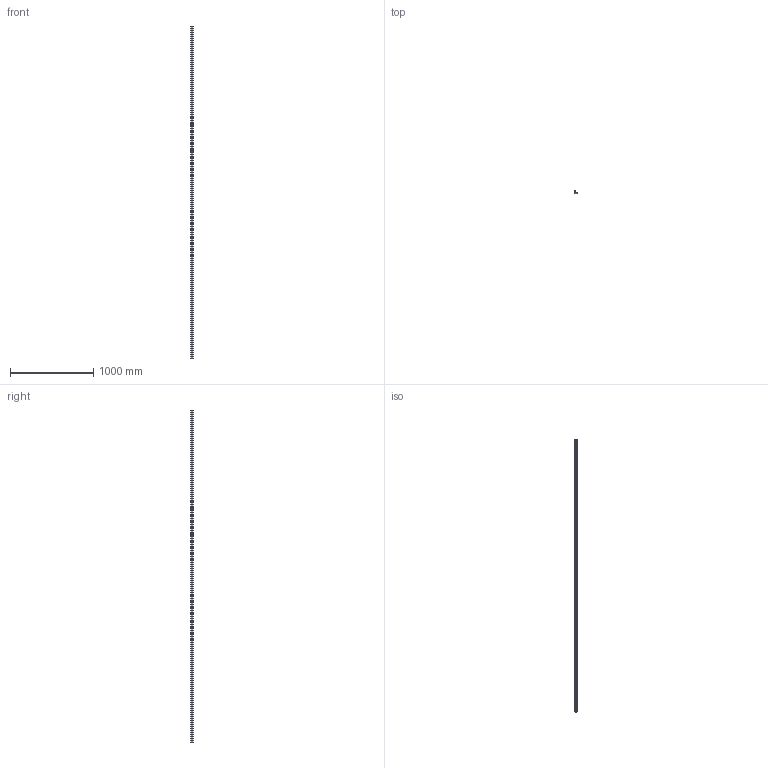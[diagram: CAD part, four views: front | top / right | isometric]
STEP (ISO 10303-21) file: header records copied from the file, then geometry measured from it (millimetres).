
FILE_DESCRIPTION (( 'STEP AP214' ), '1' );
FILE_NAME ('Penn Elcom-E6448.STEP', '2019-03-21T09:51:34', ( '' ), ( '' ), 'SwSTEP 2.0', 'SolidWorks 2019', '' );
FILE_SCHEMA (( 'AUTOMOTIVE_DESIGN' ));
Length unit declared in the file: millimetre
Products named in the file (1): Penn Elcom-E6448
Bounding box: 29.99 x 29.99 x 4000 mm (x, y, z)
Volume: 710090.7 mm3; surface area: 867872.1 mm2
Topology: 1 solids, 1 shells, 75 faces, 219 edges, 146 vertices
Faces by surface type: plane 60, cylinder 15
Entity records: 2497 total; most frequent: CARTESIAN_POINT 441, ORIENTED_EDGE 438, DIRECTION 401, EDGE_CURVE 219, VECTOR 189, LINE 189, VERTEX_POINT 146, AXIS2_PLACEMENT_3D 106
